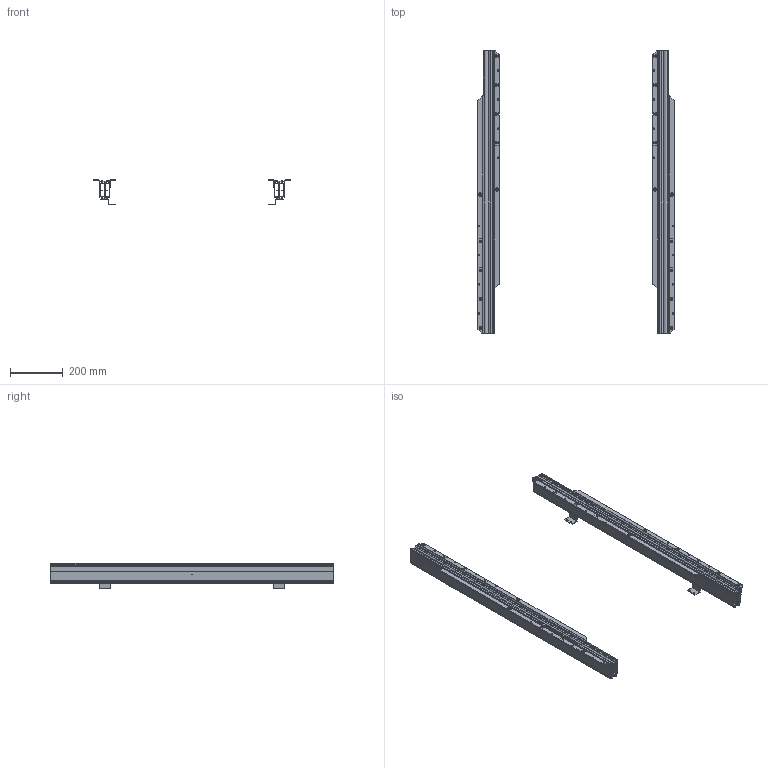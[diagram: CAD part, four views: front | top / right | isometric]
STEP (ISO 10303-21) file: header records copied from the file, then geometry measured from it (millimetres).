
FILE_DESCRIPTION( ( '' ), '1' );
FILE_NAME( 'D:/HETTCAD 2014/DATA TRANSFER/AUTOCAD EXPORT/SENT/Sheet m_6/9133042/9133042.stp', '2014-06-18T06:10:43', ( '' ), ( '' ), ' ', ' ', ' ' );
FILE_SCHEMA( ( 'CONFIG_CONTROL_DESIGN' ) );
Length unit declared in the file: millimetre
Products named in the file (2): 1; 2
Bounding box: 744 x 1070 x 96.2 mm (x, y, z)
Volume: 1801883.2 mm3; surface area: 1464802.6 mm2
Topology: 2 solids, 2 shells, 380 faces, 1044 edges, 696 vertices
Faces by surface type: plane 236, cylinder 144
Entity records: 12396 total; most frequent: CARTESIAN_POINT 2122, DIRECTION 2116, ORIENTED_EDGE 2088, EDGE_CURVE 1044, LINE 736, VECTOR 736, VERTEX_POINT 696, AXIS2_PLACEMENT_3D 690
